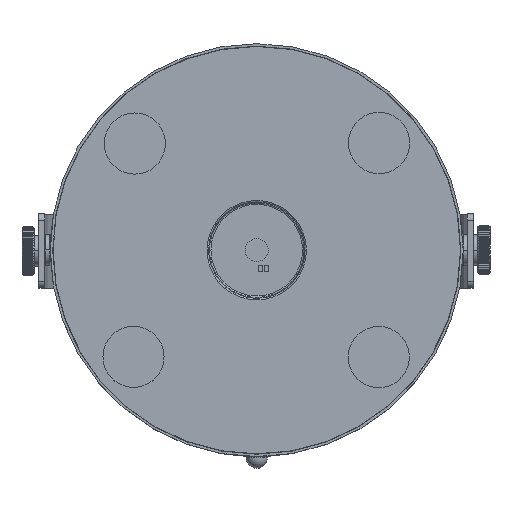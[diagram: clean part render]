
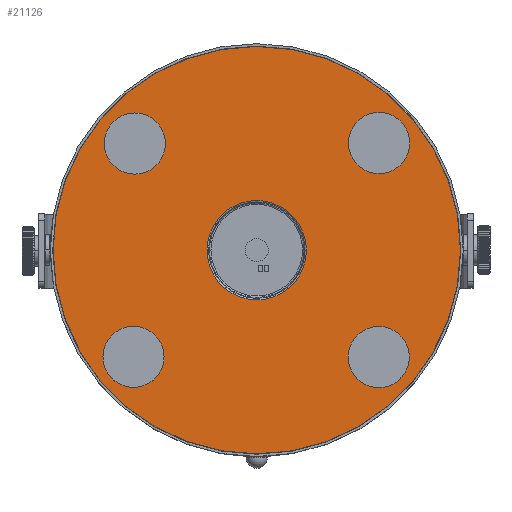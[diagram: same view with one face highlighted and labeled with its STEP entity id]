
A CAD part, top view. The second image highlights one B-rep face of the part: STEP entity #21126.
In plain terms, the highlighted planar face has unit normal (0, 0, 1).
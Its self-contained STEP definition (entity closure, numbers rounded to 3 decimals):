
#1978 = DIRECTION ( 'NONE',  ( 0., 0., -1. ) ) ;
#3492 = CIRCLE ( 'NONE', #45648, 16.239 ) ;
#5265 = CARTESIAN_POINT ( 'NONE',  ( 40.051, 34.966, 18.5 ) ) ;
#7090 = EDGE_CURVE ( 'NONE', #84416, #136585, #81699, .T. ) ;
#7926 = DIRECTION ( 'NONE',  ( 0., 0., -1. ) ) ;
#7949 = VERTEX_POINT ( 'NONE', #21850 ) ;
#13941 = ORIENTED_EDGE ( 'NONE', *, *, #18875, .T. ) ;
#14586 = EDGE_LOOP ( 'NONE', ( #93888, #13941 ) ) ;
#16329 = EDGE_CURVE ( 'NONE', #73132, #7949, #45960, .T. ) ;
#16912 = DIRECTION ( 'NONE',  ( 0., 0., -1. ) ) ;
#18875 = EDGE_CURVE ( 'NONE', #116690, #149367, #114710, .T. ) ;
#19270 = DIRECTION ( 'NONE',  ( 0., 0., -1. ) ) ;
#19518 = VERTEX_POINT ( 'NONE', #28201 ) ;
#19944 = DIRECTION ( 'NONE',  ( 1., 0., 0. ) ) ;
#21126 = ADVANCED_FACE ( 'NONE', ( #55245, #31212, #78542, #21781, #92421, #34187 ), #93170, .T. ) ;
#21781 = FACE_BOUND ( 'NONE', #143591, .T. ) ;
#21850 = CARTESIAN_POINT ( 'NONE',  ( 45.136, 34.966, 18.5 ) ) ;
#25954 = CIRCLE ( 'NONE', #105122, 5.085 ) ;
#28201 = CARTESIAN_POINT ( 'NONE',  ( -45.136, -34.966, 18.5 ) ) ;
#28613 = AXIS2_PLACEMENT_3D ( 'NONE', #127977, #45865, #83107 ) ;
#29909 = CARTESIAN_POINT ( 'NONE',  ( 0., 0., 18.5 ) ) ;
#31212 = FACE_BOUND ( 'NONE', #90289, .T. ) ;
#31627 = CARTESIAN_POINT ( 'NONE',  ( 0., 0., 18.5 ) ) ;
#33845 = DIRECTION ( 'NONE',  ( 0., 0., 1. ) ) ;
#34187 = FACE_OUTER_BOUND ( 'NONE', #89283, .T. ) ;
#35656 = CARTESIAN_POINT ( 'NONE',  ( -45.136, 34.966, 18.5 ) ) ;
#35888 = CIRCLE ( 'NONE', #95387, 5.085 ) ;
#36213 = AXIS2_PLACEMENT_3D ( 'NONE', #78218, #102942, #19944 ) ;
#37226 = CIRCLE ( 'NONE', #61986, 66.6 ) ;
#38661 = DIRECTION ( 'NONE',  ( 0., 0., -1. ) ) ;
#38742 = DIRECTION ( 'NONE',  ( 0., 0., -1. ) ) ;
#42248 = CARTESIAN_POINT ( 'NONE',  ( 45.136, -34.966, 18.5 ) ) ;
#42308 = EDGE_CURVE ( 'NONE', #149367, #116690, #98265, .T. ) ;
#43138 = CIRCLE ( 'NONE', #137144, 5.085 ) ;
#44065 = VERTEX_POINT ( 'NONE', #132434 ) ;
#45648 = AXIS2_PLACEMENT_3D ( 'NONE', #29909, #77284, #51677 ) ;
#45865 = DIRECTION ( 'NONE',  ( 0., 0., 1. ) ) ;
#45960 = CIRCLE ( 'NONE', #93010, 5.085 ) ;
#47883 = AXIS2_PLACEMENT_3D ( 'NONE', #51103, #38661, #86021 ) ;
#47896 = CARTESIAN_POINT ( 'NONE',  ( 0., 0., 18.5 ) ) ;
#49423 = DIRECTION ( 'NONE',  ( 1., 0., 0. ) ) ;
#50418 = CARTESIAN_POINT ( 'NONE',  ( -40.051, -34.966, 18.5 ) ) ;
#51103 = CARTESIAN_POINT ( 'NONE',  ( 40.051, -34.966, 18.5 ) ) ;
#51677 = DIRECTION ( 'NONE',  ( -1., 0., 0. ) ) ;
#54644 = ORIENTED_EDGE ( 'NONE', *, *, #84472, .T. ) ;
#55245 = FACE_BOUND ( 'NONE', #111992, .T. ) ;
#55318 = DIRECTION ( 'NONE',  ( -1., 0., 0. ) ) ;
#56548 = VERTEX_POINT ( 'NONE', #134386 ) ;
#58907 = AXIS2_PLACEMENT_3D ( 'NONE', #47896, #150990, #80507 ) ;
#61986 = AXIS2_PLACEMENT_3D ( 'NONE', #131429, #118305, #62545 ) ;
#62545 = DIRECTION ( 'NONE',  ( 1., 0., 0. ) ) ;
#63715 = EDGE_CURVE ( 'NONE', #7949, #73132, #25954, .T. ) ;
#64727 = VERTEX_POINT ( 'NONE', #89134 ) ;
#65568 = CARTESIAN_POINT ( 'NONE',  ( 34.966, 34.966, 18.5 ) ) ;
#65857 = CARTESIAN_POINT ( 'NONE',  ( -34.966, 34.966, 18.5 ) ) ;
#66605 = DIRECTION ( 'NONE',  ( 1., 0., 0. ) ) ;
#66826 = ORIENTED_EDGE ( 'NONE', *, *, #107042, .T. ) ;
#67627 = AXIS2_PLACEMENT_3D ( 'NONE', #31627, #33845, #80462 ) ;
#71573 = CARTESIAN_POINT ( 'NONE',  ( 16.239, 0., 18.5 ) ) ;
#73032 = CARTESIAN_POINT ( 'NONE',  ( -40.051, 34.966, 18.5 ) ) ;
#73132 = VERTEX_POINT ( 'NONE', #65568 ) ;
#76715 = EDGE_CURVE ( 'NONE', #136585, #84416, #101735, .T. ) ;
#77284 = DIRECTION ( 'NONE',  ( 0., 0., 1. ) ) ;
#78218 = CARTESIAN_POINT ( 'NONE',  ( 40.051, -34.966, 18.5 ) ) ;
#78542 = FACE_BOUND ( 'NONE', #135818, .T. ) ;
#80462 = DIRECTION ( 'NONE',  ( 1., 0., 0. ) ) ;
#80507 = DIRECTION ( 'NONE',  ( -1., 0., 0. ) ) ;
#81699 = CIRCLE ( 'NONE', #121253, 5.085 ) ;
#83107 = DIRECTION ( 'NONE',  ( 1., 0., 0. ) ) ;
#84332 = CARTESIAN_POINT ( 'NONE',  ( -66.6, 0., 18.5 ) ) ;
#84416 = VERTEX_POINT ( 'NONE', #35656 ) ;
#84472 = EDGE_CURVE ( 'NONE', #44065, #19518, #35888, .T. ) ;
#86021 = DIRECTION ( 'NONE',  ( -1., 0., 0. ) ) ;
#86102 = DIRECTION ( 'NONE',  ( 1., 0., 0. ) ) ;
#89134 = CARTESIAN_POINT ( 'NONE',  ( -16.239, 0., 18.5 ) ) ;
#89283 = EDGE_LOOP ( 'NONE', ( #130643, #66826 ) ) ;
#90289 = EDGE_LOOP ( 'NONE', ( #54644, #111181 ) ) ;
#91164 = CIRCLE ( 'NONE', #58907, 66.6 ) ;
#92421 = FACE_BOUND ( 'NONE', #14586, .T. ) ;
#93010 = AXIS2_PLACEMENT_3D ( 'NONE', #123091, #16912, #147181 ) ;
#93170 = PLANE ( 'NONE',  #28613 ) ;
#93544 = ORIENTED_EDGE ( 'NONE', *, *, #16329, .T. ) ;
#93888 = ORIENTED_EDGE ( 'NONE', *, *, #42308, .T. ) ;
#95387 = AXIS2_PLACEMENT_3D ( 'NONE', #50418, #38742, #86102 ) ;
#98265 = CIRCLE ( 'NONE', #36213, 5.085 ) ;
#98590 = CARTESIAN_POINT ( 'NONE',  ( 34.966, -34.966, 18.5 ) ) ;
#99671 = ORIENTED_EDGE ( 'NONE', *, *, #145280, .F. ) ;
#100105 = VERTEX_POINT ( 'NONE', #71573 ) ;
#101735 = CIRCLE ( 'NONE', #138719, 5.085 ) ;
#102942 = DIRECTION ( 'NONE',  ( 0., 0., -1. ) ) ;
#105122 = AXIS2_PLACEMENT_3D ( 'NONE', #5265, #19270, #66605 ) ;
#106018 = CARTESIAN_POINT ( 'NONE',  ( -40.051, 34.966, 18.5 ) ) ;
#107042 = EDGE_CURVE ( 'NONE', #56548, #146099, #37226, .T. ) ;
#107111 = CIRCLE ( 'NONE', #67627, 16.239 ) ;
#109365 = ORIENTED_EDGE ( 'NONE', *, *, #7090, .T. ) ;
#111181 = ORIENTED_EDGE ( 'NONE', *, *, #144798, .T. ) ;
#111992 = EDGE_LOOP ( 'NONE', ( #128808, #99671 ) ) ;
#114204 = CARTESIAN_POINT ( 'NONE',  ( -40.051, -34.966, 18.5 ) ) ;
#114710 = CIRCLE ( 'NONE', #47883, 5.085 ) ;
#116690 = VERTEX_POINT ( 'NONE', #98590 ) ;
#118305 = DIRECTION ( 'NONE',  ( 0., 0., 1. ) ) ;
#120246 = DIRECTION ( 'NONE',  ( 0., 0., -1. ) ) ;
#121253 = AXIS2_PLACEMENT_3D ( 'NONE', #73032, #120246, #141192 ) ;
#123091 = CARTESIAN_POINT ( 'NONE',  ( 40.051, 34.966, 18.5 ) ) ;
#127977 = CARTESIAN_POINT ( 'NONE',  ( -66.5, 0., 18.5 ) ) ;
#128808 = ORIENTED_EDGE ( 'NONE', *, *, #134466, .F. ) ;
#130643 = ORIENTED_EDGE ( 'NONE', *, *, #151401, .T. ) ;
#131429 = CARTESIAN_POINT ( 'NONE',  ( 0., 0., 18.5 ) ) ;
#131893 = ORIENTED_EDGE ( 'NONE', *, *, #63715, .T. ) ;
#132434 = CARTESIAN_POINT ( 'NONE',  ( -34.966, -34.966, 18.5 ) ) ;
#134386 = CARTESIAN_POINT ( 'NONE',  ( 66.6, 0., 18.5 ) ) ;
#134466 = EDGE_CURVE ( 'NONE', #100105, #64727, #107111, .T. ) ;
#135818 = EDGE_LOOP ( 'NONE', ( #147284, #109365 ) ) ;
#136585 = VERTEX_POINT ( 'NONE', #65857 ) ;
#137144 = AXIS2_PLACEMENT_3D ( 'NONE', #114204, #7926, #55318 ) ;
#138719 = AXIS2_PLACEMENT_3D ( 'NONE', #106018, #1978, #49423 ) ;
#141192 = DIRECTION ( 'NONE',  ( -1., 0., 0. ) ) ;
#143591 = EDGE_LOOP ( 'NONE', ( #93544, #131893 ) ) ;
#144798 = EDGE_CURVE ( 'NONE', #19518, #44065, #43138, .T. ) ;
#145280 = EDGE_CURVE ( 'NONE', #64727, #100105, #3492, .T. ) ;
#146099 = VERTEX_POINT ( 'NONE', #84332 ) ;
#147181 = DIRECTION ( 'NONE',  ( -1., 0., 0. ) ) ;
#147284 = ORIENTED_EDGE ( 'NONE', *, *, #76715, .T. ) ;
#149367 = VERTEX_POINT ( 'NONE', #42248 ) ;
#150990 = DIRECTION ( 'NONE',  ( 0., 0., 1. ) ) ;
#151401 = EDGE_CURVE ( 'NONE', #146099, #56548, #91164, .T. ) ;
